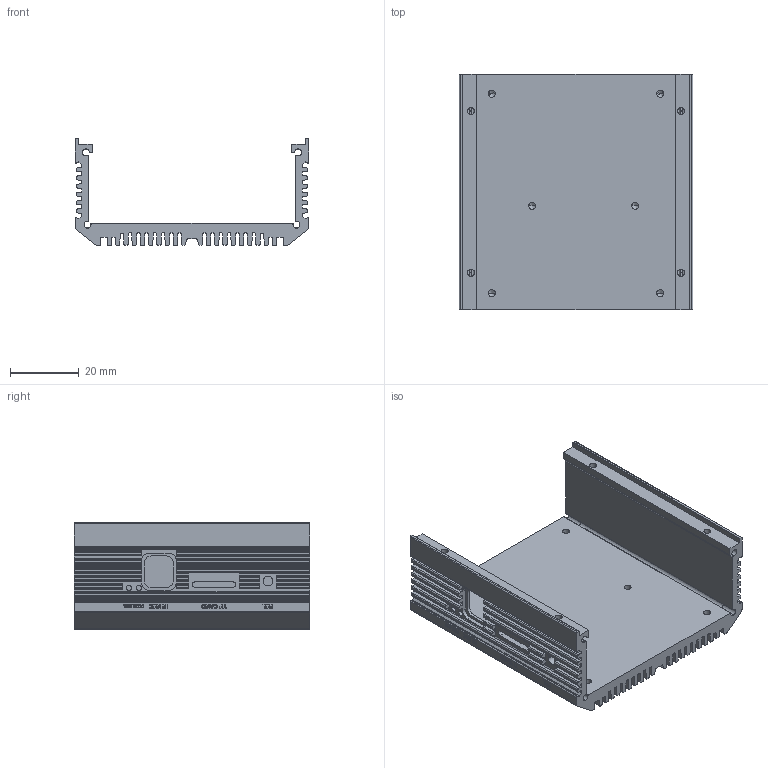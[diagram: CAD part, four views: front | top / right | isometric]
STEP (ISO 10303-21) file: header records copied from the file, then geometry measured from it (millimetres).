
FILE_DESCRIPTION (( 'STEP AP214' ), '1' );
FILE_NAME ('LubanCat A1 撥臏翋极.STEP', '2024-06-03T02:37:02', ( '' ), ( '' ), 'SwSTEP 2.0', 'SolidWorks 2021', '' );
FILE_SCHEMA (( 'AUTOMOTIVE_DESIGN' ));
Length unit declared in the file: millimetre
Products named in the file (1): LubanCat A1 撥臏翋极
Bounding box: 68 x 68.55 x 31 mm (x, y, z)
Volume: 31081.3 mm3; surface area: 29543 mm2
Topology: 1 solids, 1 shells, 814 faces, 2329 edges, 1528 vertices
Faces by surface type: plane 421, cylinder 275, bspline 74, cone 44
Entity records: 33605 total; most frequent: CARTESIAN_POINT 9322, ORIENTED_EDGE 4618, DIRECTION 4117, EDGE_CURVE 2309, LINE 1567, VECTOR 1567, VERTEX_POINT 1528, AXIS2_PLACEMENT_3D 1275
